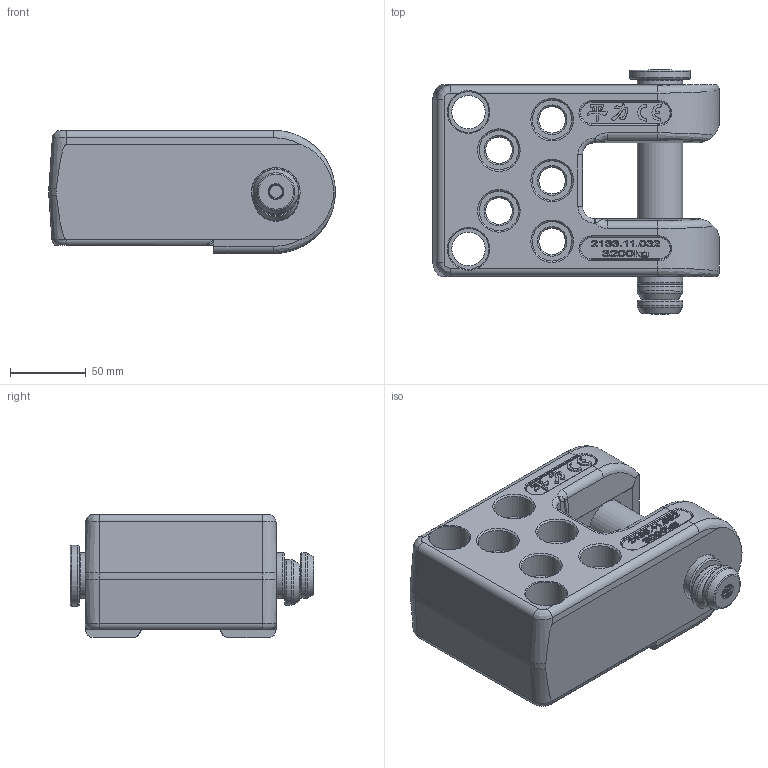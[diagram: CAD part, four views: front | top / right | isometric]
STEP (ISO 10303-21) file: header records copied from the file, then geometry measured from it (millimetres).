
FILE_DESCRIPTION(/* description */ (''),/* implementation_level */ '2;1');
FILE_NAME(/* name */ '2133.11.032.stp',/* time_stamp */ '2025-04-02T13:49:18+08:00',/* author */ (''),/* organization */ (''),/* preprocessor_version */ 'ST-DEVELOPER v16',/* originating_system */ 'SIEMENS PLM Software NX 10.0',/* authorisation */ '');
FILE_SCHEMA (('AP203_CONFIGURATION_CONTROLLED_3D_DESIGN_OF_MECHANICAL_PARTS_AND_ASSEMBLIES_MIM_LF { 1 0 10303 403 2 1 2}'));
Length unit declared in the file: millimetre
Products named in the file (1): Admi177C9AD32ig1
Bounding box: 188.56 x 160.5 x 80.98 mm (x, y, z)
Volume: 1263671.7 mm3; surface area: 147592.3 mm2
Topology: 4 solids, 4 shells, 786 faces, 2040 edges, 1323 vertices
Faces by surface type: plane 316, extrusion 249, cylinder 102, bspline 62, cone 34, torus 23
Full cylindrical faces by diameter (mm): 13 x1, 17.5 x5, 22 x3, 26 x5, 27 x2, 30 x3, 32 x2, 40 x1
Entity records: 29381 total; most frequent: CARTESIAN_POINT 11947, ORIENTED_EDGE 3924, DIRECTION 2674, EDGE_CURVE 1962, VERTEX_POINT 1306, VECTOR 1104, B_SPLINE_CURVE_WITH_KNOTS 1044, EDGE_LOOP 928
